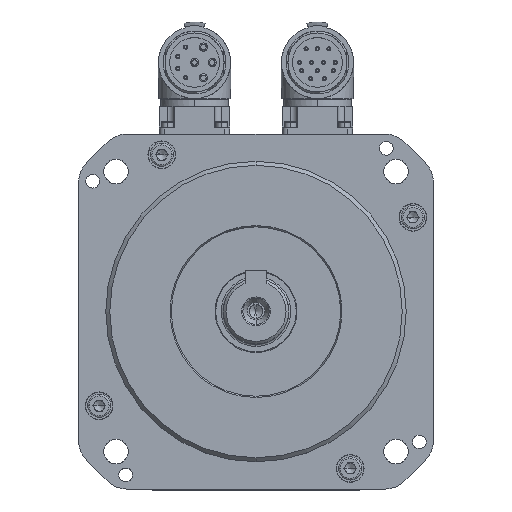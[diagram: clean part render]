
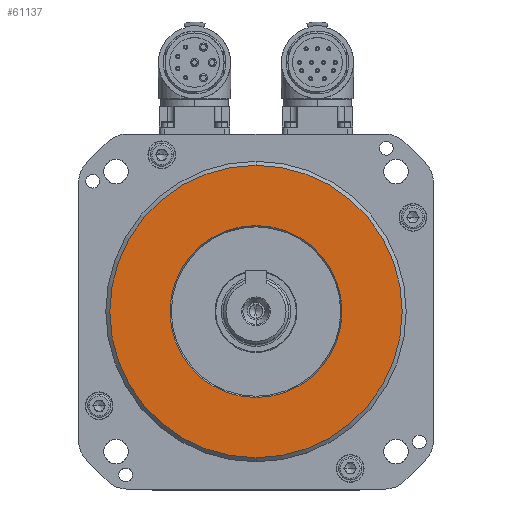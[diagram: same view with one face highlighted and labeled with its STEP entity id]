
A CAD part, top view. The second image highlights one B-rep face of the part: STEP entity #61137.
In plain terms, the highlighted planar face has unit normal (0, 0, 1).
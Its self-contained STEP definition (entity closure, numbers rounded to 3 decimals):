
#4504 = AXIS2_PLACEMENT_3D ( 'NONE', #38788, #19386, #28875 ) ;
#6214 = CARTESIAN_POINT ( 'NONE',  ( 0., 0., 66.8 ) ) ;
#6427 = DIRECTION ( 'NONE',  ( 0., -1., 0. ) ) ;
#8431 = AXIS2_PLACEMENT_3D ( 'NONE', #60834, #50865, #31964 ) ;
#11536 = EDGE_CURVE ( 'NONE', #54615, #30485, #55749, .T. ) ;
#12648 = CARTESIAN_POINT ( 'NONE',  ( 0., 31.481, 66.8 ) ) ;
#14365 = DIRECTION ( 'NONE',  ( 0., -1., 0. ) ) ;
#16665 = ORIENTED_EDGE ( 'NONE', *, *, #11536, .T. ) ;
#16831 = CARTESIAN_POINT ( 'NONE',  ( 0., 0., 66.8 ) ) ;
#17100 = ORIENTED_EDGE ( 'NONE', *, *, #20953, .F. ) ;
#19386 = DIRECTION ( 'NONE',  ( 0., 0., 1. ) ) ;
#19466 = VERTEX_POINT ( 'NONE', #51821 ) ;
#20953 = EDGE_CURVE ( 'NONE', #19466, #59484, #39750, .T. ) ;
#21131 = EDGE_CURVE ( 'NONE', #30485, #54615, #32237, .T. ) ;
#21941 = AXIS2_PLACEMENT_3D ( 'NONE', #16831, #41423, #50491 ) ;
#26390 = ORIENTED_EDGE ( 'NONE', *, *, #21131, .T. ) ;
#27033 = AXIS2_PLACEMENT_3D ( 'NONE', #6214, #53743, #6427 ) ;
#28875 = DIRECTION ( 'NONE',  ( 0., -1., 0. ) ) ;
#30485 = VERTEX_POINT ( 'NONE', #33536 ) ;
#31964 = DIRECTION ( 'NONE',  ( 0., -1., 0. ) ) ;
#32237 = CIRCLE ( 'NONE', #50436, 53.54 ) ;
#33536 = CARTESIAN_POINT ( 'NONE',  ( 0., 53.54, 66.8 ) ) ;
#35339 = EDGE_LOOP ( 'NONE', ( #26390, #16665 ) ) ;
#36208 = PLANE ( 'NONE',  #21941 ) ;
#36627 = EDGE_CURVE ( 'NONE', #59484, #19466, #37411, .T. ) ;
#37411 = CIRCLE ( 'NONE', #4504, 31.481 ) ;
#38382 = DIRECTION ( 'NONE',  ( 0., 0., 1. ) ) ;
#38788 = CARTESIAN_POINT ( 'NONE',  ( 0., 0., 66.8 ) ) ;
#38918 = ORIENTED_EDGE ( 'NONE', *, *, #36627, .F. ) ;
#39694 = FACE_OUTER_BOUND ( 'NONE', #35339, .T. ) ;
#39750 = CIRCLE ( 'NONE', #27033, 31.481 ) ;
#41423 = DIRECTION ( 'NONE',  ( 0., 0., 1. ) ) ;
#43193 = CARTESIAN_POINT ( 'NONE',  ( 0., 0., 66.8 ) ) ;
#46719 = CARTESIAN_POINT ( 'NONE',  ( 0., -53.54, 66.8 ) ) ;
#50436 = AXIS2_PLACEMENT_3D ( 'NONE', #43193, #38382, #14365 ) ;
#50491 = DIRECTION ( 'NONE',  ( 0., -1., 0. ) ) ;
#50865 = DIRECTION ( 'NONE',  ( 0., 0., 1. ) ) ;
#51821 = CARTESIAN_POINT ( 'NONE',  ( 0., -31.481, 66.8 ) ) ;
#53743 = DIRECTION ( 'NONE',  ( 0., 0., 1. ) ) ;
#54615 = VERTEX_POINT ( 'NONE', #46719 ) ;
#55749 = CIRCLE ( 'NONE', #8431, 53.54 ) ;
#57973 = EDGE_LOOP ( 'NONE', ( #38918, #17100 ) ) ;
#59484 = VERTEX_POINT ( 'NONE', #12648 ) ;
#60834 = CARTESIAN_POINT ( 'NONE',  ( 0., 0., 66.8 ) ) ;
#61137 = ADVANCED_FACE ( 'NONE', ( #61601, #39694 ), #36208, .T. ) ;
#61601 = FACE_BOUND ( 'NONE', #57973, .T. ) ;
